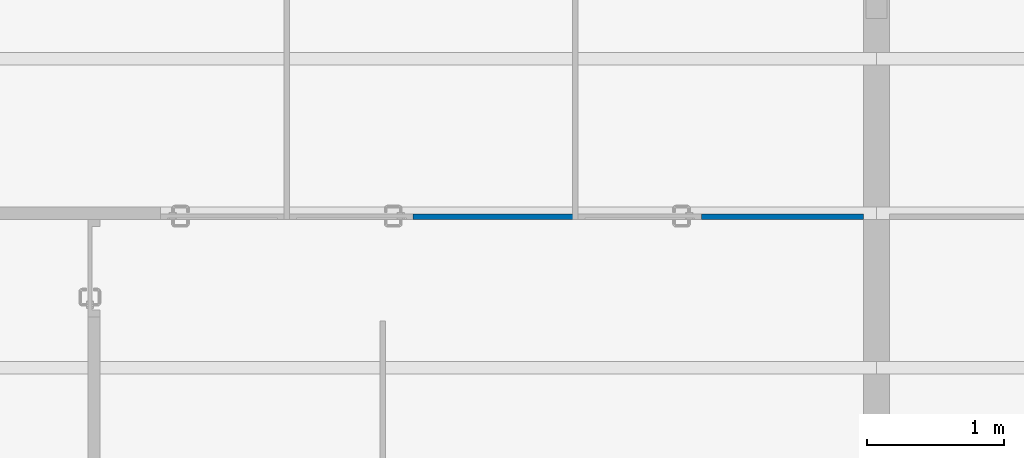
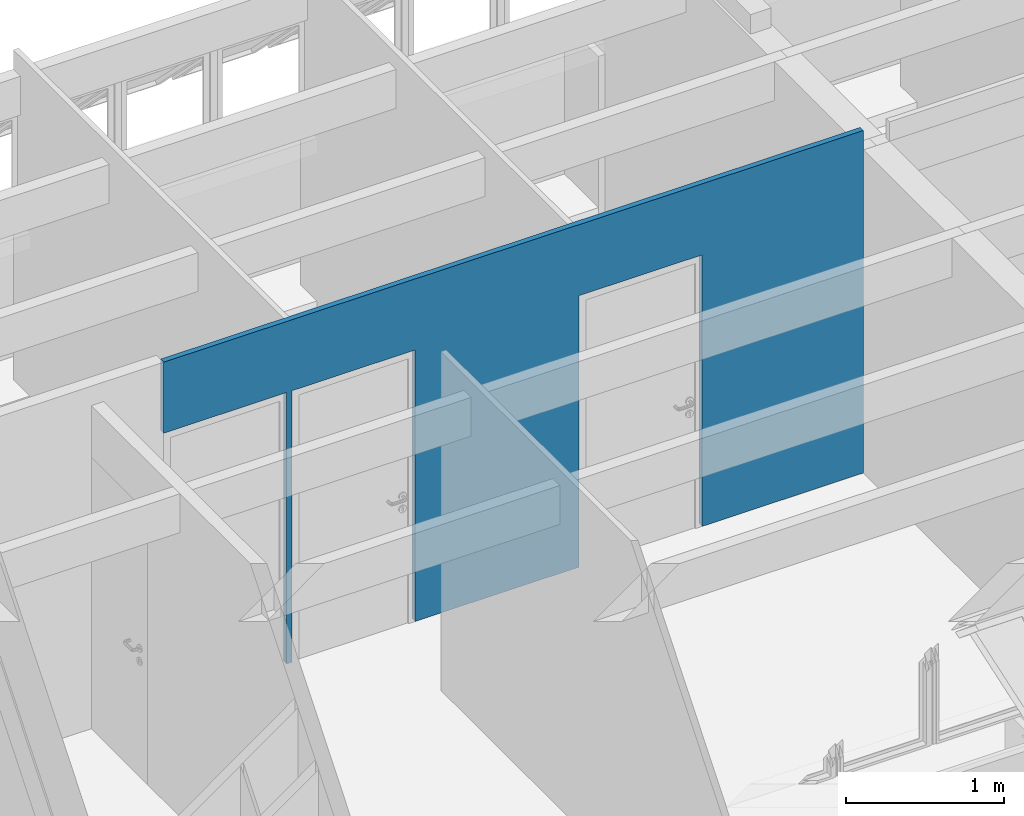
# One storey, part 34 of 40: 1 wall, 3 openings.
"""IFC4 building model written with IfcOpenShell, lengths in millimetres."""

from ifc_helpers import new_model, entity, si_unit, converted_unit, derived_unit, direction, frame, origin_with_axes, origin_2d_with_axis, place, context, subcontext, project, spatial, line, indexed_curve, rectangle, outline, extrude, material, layer, layer_set, layer_usage, type_object, element, save


model = new_model("IFC4")

# Units and contexts
model_context = context("Model", 3, precision=0.01, world=origin_with_axes(), true_north=direction((0.0, 1.0)))
body_context = subcontext(model_context, "Body", "Model", "MODEL_VIEW")
ifc_project = project(units=[si_unit("LENGTHUNIT", "METRE", prefix="MILLI"), si_unit("AREAUNIT", "SQUARE_METRE"), si_unit("VOLUMEUNIT", "CUBIC_METRE"), converted_unit("PLANEANGLEUNIT", "DEGREE", entity("IfcPlaneAngleMeasure", 0.0174532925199), si_unit("PLANEANGLEUNIT", "RADIAN"), dimensions=[0, 0, 0, 0, 0, 0, 0]), converted_unit("TIMEUNIT", "Year", entity("IfcTimeMeasure", 31556926.0), si_unit("TIMEUNIT", "SECOND"), dimensions=[0, 0, 1, 0, 0, 0, 0]), si_unit("MASSUNIT", "GRAM", prefix="KILO"), si_unit("THERMODYNAMICTEMPERATUREUNIT", "DEGREE_CELSIUS"), si_unit("LUMINOUSINTENSITYUNIT", "LUMEN"), si_unit("ENERGYUNIT", "JOULE", prefix="MEGA"), derived_unit("THERMALCONDUCTANCEUNIT", [(si_unit("POWERUNIT", "WATT"), 1), (si_unit("LENGTHUNIT", "METRE"), -1), (si_unit("THERMODYNAMICTEMPERATUREUNIT", "KELVIN"), -1)]), derived_unit("SPECIFICHEATCAPACITYUNIT", [(si_unit("ENERGYUNIT", "JOULE"), 1), (si_unit("MASSUNIT", "GRAM", prefix="KILO"), -1), (si_unit("THERMODYNAMICTEMPERATUREUNIT", "KELVIN"), -1)]), derived_unit("MASSDENSITYUNIT", [(si_unit("MASSUNIT", "GRAM", prefix="KILO"), 1), (si_unit("VOLUMEUNIT", "CUBIC_METRE"), -1)])], contexts=[model_context])

# Site, building, storey
site_placement = place(None, origin_with_axes())
site = spatial("IfcSite", under=ifc_project, at=site_placement, Name="Local", CompositionType="ELEMENT")
building_placement = place(site_placement, origin_with_axes())
building = spatial("IfcBuilding", under=site, at=building_placement, Name="Construção", CompositionType="ELEMENT")
storey_placement = place(building_placement, frame((0.0, 0.0, 5300.0), z_axis=(0.0, 0.0, 1.0), x_axis=(1.0, 0.0, 0.0)))
storey = spatial("IfcBuildingStorey", under=building, at=storey_placement, Name="Terceiro Pavimento", CompositionType="ELEMENT", Elevation=5300.0)

# Wall, openings
ifc_material = material(Name="GENÉRICO - VEDAÇÃO EXTERNA")
ifc_layer = layer(ifc_material, 40.0, ventilated="UNKNOWN", Name="GENÉRICO - VEDAÇÃO EXTERNA")
ifc_layer_set = layer_set([ifc_layer], Name="GENÉRICO - VEDAÇÃO EXTERNA 40")
ifc_layer_usage = layer_usage(ifc_layer_set, "AXIS2", "POSITIVE", 0.0)
wall_type = type_object("IfcWallType", Name="GENÉRICO - VEDAÇÃO EXTERNA 40", PredefinedType="NOTDEFINED")
wall_placement = place(storey_placement, frame((2170.0, 22394.7804333, 0.0), z_axis=(0.0, 0.0, 1.0), x_axis=(0.99999999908, 4.28841203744e-05, 0.0)))
wall = element("IfcWall", 1, at=wall_placement, inside=storey, type_object=wall_type, material=ifc_layer_usage, Name="APTO11-PAREDE-006", PredefinedType="NOTDEFINED", context=body_context, shape_type="SweptSolid", body=[
    extrude(outline(indexed_curve([(0.0, 0.0), (5120.00000471, 0.0), (5120.00000471, 40.0), (0.000857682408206, 40.0)], segments=[line(1, 2, 3, 4, 1)])), origin_with_axes(), (0.0, 0.0, 1.0), 2650.0),
])
opening_1_placement = place(wall_placement, frame((1390.00000471, 0.0, 0.0), z_axis=(0.0, 0.0, 1.0), x_axis=(1.0, 0.0, 0.0)))
element("IfcOpeningElement", 2, at=opening_1_placement, cuts=wall, Name="APTO11-PORTA-002", context=body_context, shape_type="SweptSolid", body=[
    extrude(rectangle(XDim=900.0, YDim=2100.0, at=origin_2d_with_axis()), frame((0.0, 40.0, 1050.0), z_axis=(0.0, 1.0, 0.0), x_axis=(-1.0, 0.0, 0.0)), (0.0, 0.0, -1.0), 120.0),
])
opening_2_placement = place(wall_placement, frame((450.000004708, 0.0, 0.0), z_axis=(0.0, 0.0, 1.0), x_axis=(1.0, 0.0, 0.0)))
element("IfcOpeningElement", 3, at=opening_2_placement, cuts=wall, Name="APTO11-PORTA-001", context=body_context, shape_type="SweptSolid", body=[
    extrude(rectangle(XDim=900.0, YDim=2100.0, at=origin_2d_with_axis()), frame((0.0, 40.0, 1050.0), z_axis=(0.0, -1.0, 0.0), x_axis=(1.0, 0.0, 0.0)), (0.0, 0.0, 1.0), 120.0),
])
opening_3_placement = place(wall_placement, frame((3490.00000471, 0.0, 0.0), z_axis=(0.0, 0.0, 1.0), x_axis=(1.0, 0.0, 0.0)))
element("IfcOpeningElement", 4, at=opening_3_placement, cuts=wall, Name="APTO11-PORTA-000", context=body_context, shape_type="SweptSolid", body=[
    extrude(rectangle(XDim=900.0, YDim=2100.0, at=origin_2d_with_axis()), frame((0.0, 40.0, 1050.0), z_axis=(0.0, 1.0, 0.0), x_axis=(-1.0, 0.0, 0.0)), (0.0, 0.0, -1.0), 120.0),
])

save(model, "model.ifc")
